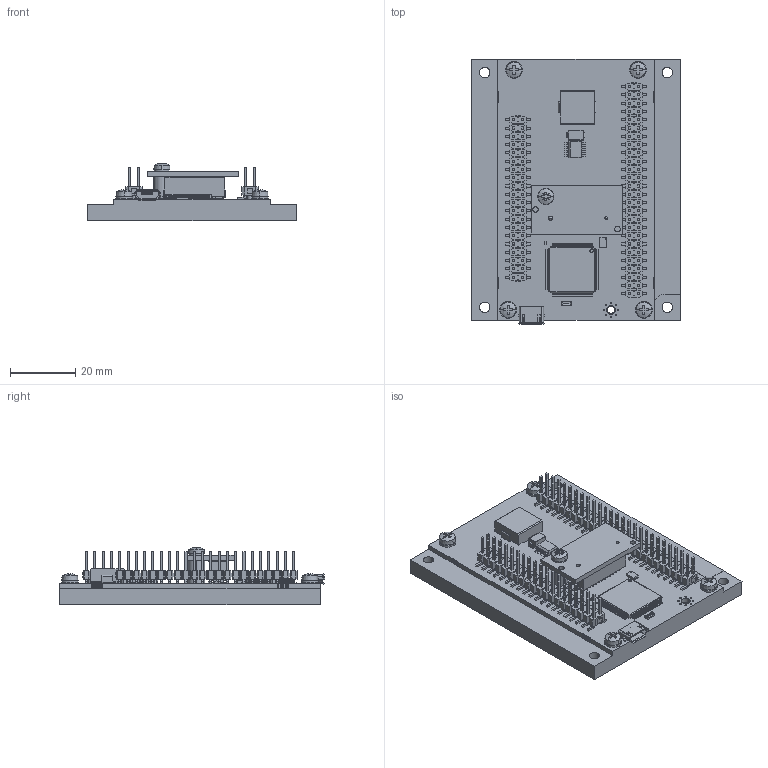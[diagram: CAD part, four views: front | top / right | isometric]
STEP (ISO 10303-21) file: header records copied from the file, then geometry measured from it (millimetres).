
FILE_DESCRIPTION((''),'2;1');
FILE_NAME('833716_EPOS4_MODULE_60-20','2025-05-16T15:00:54',('mmagvisi'),(''),'CREO PARAMETRIC BY PTC INC, 2023092','CREO PARAMETRIC BY PTC INC, 2023092','');
FILE_SCHEMA(('CONFIG_CONTROL_DESIGN','SHAPE_APPEARANCE_LAYERS_GROUPS'));
Products named in the file (1): 833716_EPOS4_MODULE_60-20
Bounding box: 64 x 81.3 x 17.52 mm (x, y, z)
Volume: 30067.4 mm3; surface area: 28117.4 mm2
Topology: 14 solids, 14 shells, 5177 faces, 14930 edges, 9885 vertices
Faces by surface type: plane 4007, cylinder 1058, sphere 48, cone 47, torus 13, bspline 4
Entity records: 215060 total; most frequent: CARTESIAN_POINT 32544, ORIENTED_EDGE 29768, DIRECTION 26668, PRESENTATION_STYLE_ASSIGNMENT 14898, STYLED_ITEM 14898, CURVE_STYLE 14884, EDGE_CURVE 14884, VECTOR 12446
